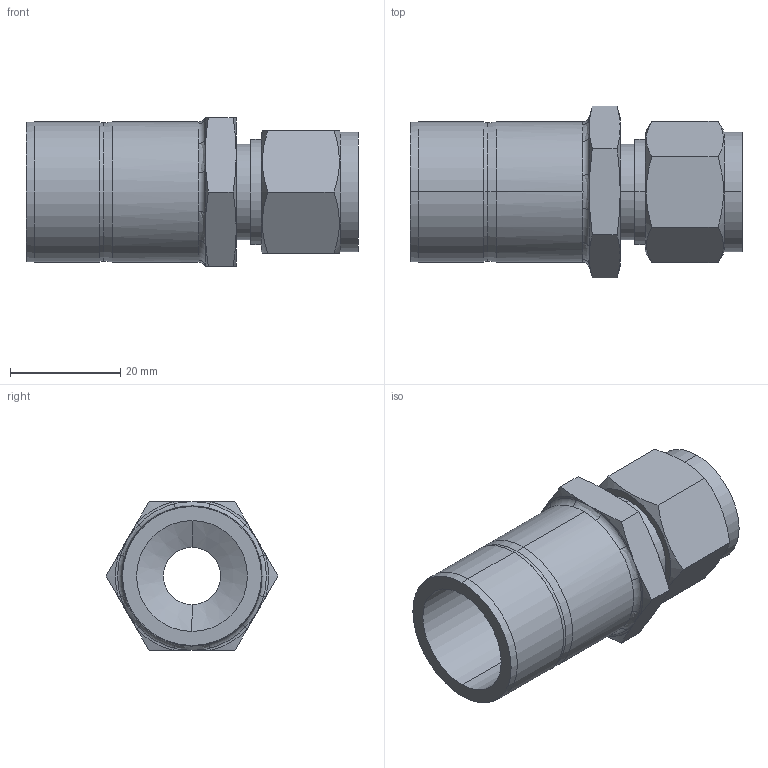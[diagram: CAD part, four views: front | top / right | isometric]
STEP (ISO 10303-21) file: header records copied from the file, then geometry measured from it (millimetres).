
FILE_DESCRIPTION (( 'STEP AP203' ), '1' );
FILE_NAME ('DRE08-16 SS.STEP', '2009-09-08T08:38:26', ( ' ' ), ( '' ), 'SwSTEP 2.0', 'SolidWorks 2008', '' );
FILE_SCHEMA (( 'CONFIG_CONTROL_DESIGN' ));
Length unit declared in the file: millimetre
Products named in the file (1): DRE08-16 SS
Bounding box: 60.2 x 31.17 x 26.99 mm (x, y, z)
Volume: 15391 mm3; surface area: 9059.8 mm2
Topology: 1 solids, 1 shells, 78 faces, 176 edges, 104 vertices
Faces by surface type: cone 24, plane 24, cylinder 18, bspline 6, torus 6
Entity records: 2637 total; most frequent: CARTESIAN_POINT 881, ORIENTED_EDGE 352, DIRECTION 348, EDGE_CURVE 176, AXIS2_PLACEMENT_3D 147, VERTEX_POINT 104, EDGE_LOOP 84, FACE_OUTER_BOUND 78
